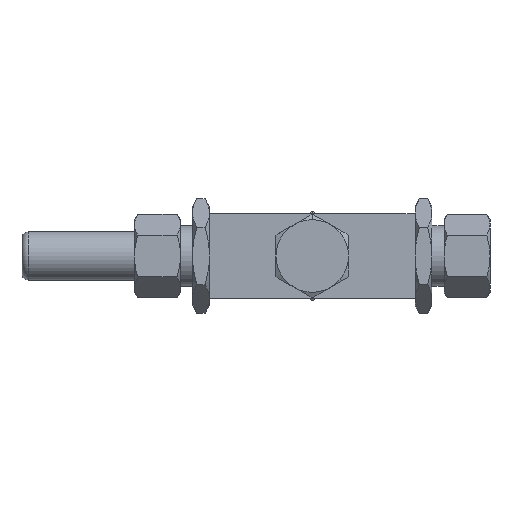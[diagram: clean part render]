
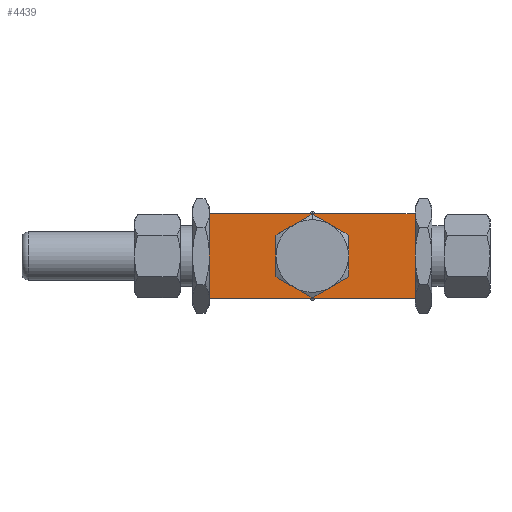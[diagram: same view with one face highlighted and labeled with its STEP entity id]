
A CAD part, front view. The second image highlights one B-rep face of the part: STEP entity #4439.
In plain terms, the highlighted planar face has unit normal (0, -1, 0).
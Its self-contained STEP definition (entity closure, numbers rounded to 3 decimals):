
#19 = VERTEX_POINT ( 'NONE', #6169 ) ;
#33 = DIRECTION ( 'NONE',  ( 0., 0., -1. ) ) ;
#43 = CARTESIAN_POINT ( 'NONE',  ( -7.5, -32.5, 12.99 ) ) ;
#55 = DIRECTION ( 'NONE',  ( 0., 0., -1. ) ) ;
#204 = DIRECTION ( 'NONE',  ( 0., 0., -1. ) ) ;
#365 = DIRECTION ( 'NONE',  ( 0., 0., 1. ) ) ;
#502 = ORIENTED_EDGE ( 'NONE', *, *, #2328, .F. ) ;
#579 = DIRECTION ( 'NONE',  ( 0., 0., -1. ) ) ;
#662 = AXIS2_PLACEMENT_3D ( 'NONE', #4256, #6233, #6294 ) ;
#762 = DIRECTION ( 'NONE',  ( 0., 0., -1. ) ) ;
#842 = FACE_OUTER_BOUND ( 'NONE', #3313, .T. ) ;
#1077 = VERTEX_POINT ( 'NONE', #3966 ) ;
#1101 = EDGE_CURVE ( 'NONE', #4779, #1284, #4393, .T. ) ;
#1116 = DIRECTION ( 'NONE',  ( 0., -1., 0. ) ) ;
#1151 = VERTEX_POINT ( 'NONE', #2646 ) ;
#1198 = CARTESIAN_POINT ( 'NONE',  ( 0., -32.5, -15. ) ) ;
#1284 = VERTEX_POINT ( 'NONE', #5541 ) ;
#1294 = DIRECTION ( 'NONE',  ( 0., 0., -1. ) ) ;
#1730 = DIRECTION ( 'NONE',  ( 0., -1., 0. ) ) ;
#1755 = AXIS2_PLACEMENT_3D ( 'NONE', #3318, #5382, #365 ) ;
#1873 = LINE ( 'NONE', #3846, #3681 ) ;
#1913 = CIRCLE ( 'NONE', #5538, 15. ) ;
#1940 = DIRECTION ( 'NONE',  ( 0., -1., 0. ) ) ;
#1985 = ORIENTED_EDGE ( 'NONE', *, *, #5207, .T. ) ;
#2071 = VECTOR ( 'NONE', #5577, 1000. ) ;
#2196 = VERTEX_POINT ( 'NONE', #4094 ) ;
#2328 = EDGE_CURVE ( 'NONE', #1284, #1151, #1913, .T. ) ;
#2381 = VERTEX_POINT ( 'NONE', #3181 ) ;
#2383 = ORIENTED_EDGE ( 'NONE', *, *, #4301, .T. ) ;
#2491 = CIRCLE ( 'NONE', #662, 15. ) ;
#2515 = EDGE_CURVE ( 'NONE', #19, #2381, #1873, .T. ) ;
#2526 = CARTESIAN_POINT ( 'NONE',  ( -7.5, -32.5, -12.99 ) ) ;
#2597 = AXIS2_PLACEMENT_3D ( 'NONE', #2970, #4064, #55 ) ;
#2632 = CARTESIAN_POINT ( 'NONE',  ( -42.5, -32.5, 17.5 ) ) ;
#2646 = CARTESIAN_POINT ( 'NONE',  ( 15., -32.5, 0. ) ) ;
#2775 = CIRCLE ( 'NONE', #5666, 15. ) ;
#2903 = VECTOR ( 'NONE', #5717, 1000. ) ;
#2970 = CARTESIAN_POINT ( 'NONE',  ( 0., -32.5, 0. ) ) ;
#3181 = CARTESIAN_POINT ( 'NONE',  ( 42.5, -32.5, 17.5 ) ) ;
#3187 = LINE ( 'NONE', #2632, #5574 ) ;
#3242 = EDGE_LOOP ( 'NONE', ( #3275, #6326, #502, #5068, #3555, #6202, #3735 ) ) ;
#3275 = ORIENTED_EDGE ( 'NONE', *, *, #6234, .F. ) ;
#3313 = EDGE_LOOP ( 'NONE', ( #1985, #6105, #4805, #2383 ) ) ;
#3318 = CARTESIAN_POINT ( 'NONE',  ( -42.5, -32.5, 17.5 ) ) ;
#3403 = CARTESIAN_POINT ( 'NONE',  ( 0., -32.5, 0. ) ) ;
#3422 = CIRCLE ( 'NONE', #3632, 15. ) ;
#3527 = CIRCLE ( 'NONE', #2597, 15. ) ;
#3537 = VERTEX_POINT ( 'NONE', #3762 ) ;
#3555 = ORIENTED_EDGE ( 'NONE', *, *, #3702, .F. ) ;
#3632 = AXIS2_PLACEMENT_3D ( 'NONE', #6135, #3648, #762 ) ;
#3648 = DIRECTION ( 'NONE',  ( 0., -1., 0. ) ) ;
#3681 = VECTOR ( 'NONE', #5703, 1000. ) ;
#3702 = EDGE_CURVE ( 'NONE', #3839, #4779, #2775, .T. ) ;
#3735 = ORIENTED_EDGE ( 'NONE', *, *, #6074, .F. ) ;
#3762 = CARTESIAN_POINT ( 'NONE',  ( 42.5, -32.5, -17.5 ) ) ;
#3839 = VERTEX_POINT ( 'NONE', #2526 ) ;
#3846 = CARTESIAN_POINT ( 'NONE',  ( -42.5, -32.5, 17.5 ) ) ;
#3966 = CARTESIAN_POINT ( 'NONE',  ( -15., -32.5, 0. ) ) ;
#4021 = LINE ( 'NONE', #5998, #2071 ) ;
#4064 = DIRECTION ( 'NONE',  ( 0., -1., 0. ) ) ;
#4094 = CARTESIAN_POINT ( 'NONE',  ( -42.5, -32.5, -17.5 ) ) ;
#4159 = LINE ( 'NONE', #4626, #2903 ) ;
#4179 = DIRECTION ( 'NONE',  ( 0., 0., -1. ) ) ;
#4193 = CARTESIAN_POINT ( 'NONE',  ( 0., -32.5, 0. ) ) ;
#4256 = CARTESIAN_POINT ( 'NONE',  ( 0., -32.5, 0. ) ) ;
#4301 = EDGE_CURVE ( 'NONE', #19, #2196, #3187, .T. ) ;
#4312 = CARTESIAN_POINT ( 'NONE',  ( 7.5, -32.5, 12.99 ) ) ;
#4393 = CIRCLE ( 'NONE', #5234, 15. ) ;
#4439 = ADVANCED_FACE ( 'NONE', ( #842, #4770 ), #4828, .F. ) ;
#4626 = CARTESIAN_POINT ( 'NONE',  ( 42.5, -32.5, 17.5 ) ) ;
#4770 = FACE_BOUND ( 'NONE', #3242, .T. ) ;
#4779 = VERTEX_POINT ( 'NONE', #1198 ) ;
#4805 = ORIENTED_EDGE ( 'NONE', *, *, #2515, .F. ) ;
#4828 = PLANE ( 'NONE',  #1755 ) ;
#4941 = VERTEX_POINT ( 'NONE', #4312 ) ;
#5002 = VERTEX_POINT ( 'NONE', #43 ) ;
#5068 = ORIENTED_EDGE ( 'NONE', *, *, #1101, .F. ) ;
#5153 = CARTESIAN_POINT ( 'NONE',  ( 0., -32.5, 0. ) ) ;
#5204 = DIRECTION ( 'NONE',  ( 0., -1., 0. ) ) ;
#5207 = EDGE_CURVE ( 'NONE', #2196, #3537, #4021, .T. ) ;
#5234 = AXIS2_PLACEMENT_3D ( 'NONE', #4193, #5204, #1294 ) ;
#5279 = CIRCLE ( 'NONE', #6205, 15. ) ;
#5382 = DIRECTION ( 'NONE',  ( 0., 1., 0. ) ) ;
#5533 = CARTESIAN_POINT ( 'NONE',  ( 0., -32.5, 0. ) ) ;
#5538 = AXIS2_PLACEMENT_3D ( 'NONE', #5153, #1730, #204 ) ;
#5541 = CARTESIAN_POINT ( 'NONE',  ( 7.5, -32.5, -12.99 ) ) ;
#5574 = VECTOR ( 'NONE', #4179, 1000. ) ;
#5577 = DIRECTION ( 'NONE',  ( 1., 0., 0. ) ) ;
#5666 = AXIS2_PLACEMENT_3D ( 'NONE', #3403, #1940, #33 ) ;
#5678 = EDGE_CURVE ( 'NONE', #1151, #4941, #5279, .T. ) ;
#5703 = DIRECTION ( 'NONE',  ( 1., 0., 0. ) ) ;
#5717 = DIRECTION ( 'NONE',  ( 0., 0., -1. ) ) ;
#5998 = CARTESIAN_POINT ( 'NONE',  ( -42.5, -32.5, -17.5 ) ) ;
#6074 = EDGE_CURVE ( 'NONE', #5002, #1077, #3527, .T. ) ;
#6105 = ORIENTED_EDGE ( 'NONE', *, *, #6112, .F. ) ;
#6112 = EDGE_CURVE ( 'NONE', #2381, #3537, #4159, .T. ) ;
#6120 = EDGE_CURVE ( 'NONE', #1077, #3839, #3422, .T. ) ;
#6135 = CARTESIAN_POINT ( 'NONE',  ( 0., -32.5, 0. ) ) ;
#6169 = CARTESIAN_POINT ( 'NONE',  ( -42.5, -32.5, 17.5 ) ) ;
#6202 = ORIENTED_EDGE ( 'NONE', *, *, #6120, .F. ) ;
#6205 = AXIS2_PLACEMENT_3D ( 'NONE', #5533, #1116, #579 ) ;
#6233 = DIRECTION ( 'NONE',  ( 0., -1., 0. ) ) ;
#6234 = EDGE_CURVE ( 'NONE', #4941, #5002, #2491, .T. ) ;
#6294 = DIRECTION ( 'NONE',  ( 0., 0., -1. ) ) ;
#6326 = ORIENTED_EDGE ( 'NONE', *, *, #5678, .F. ) ;
